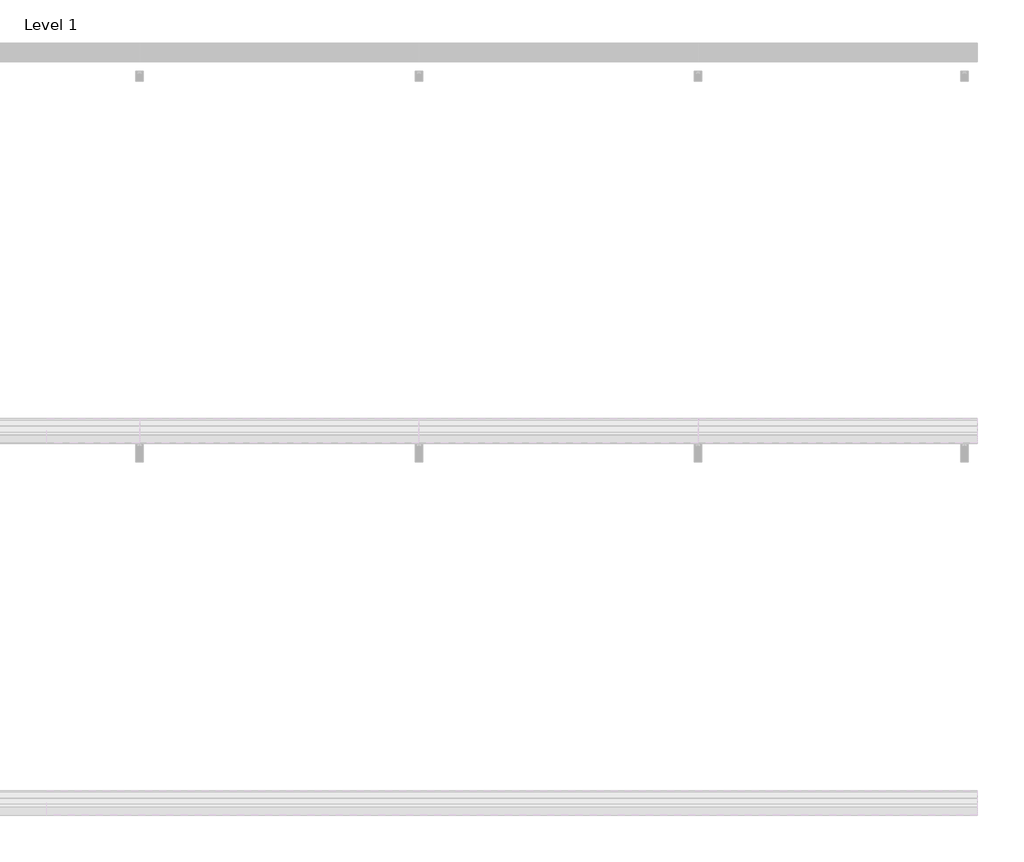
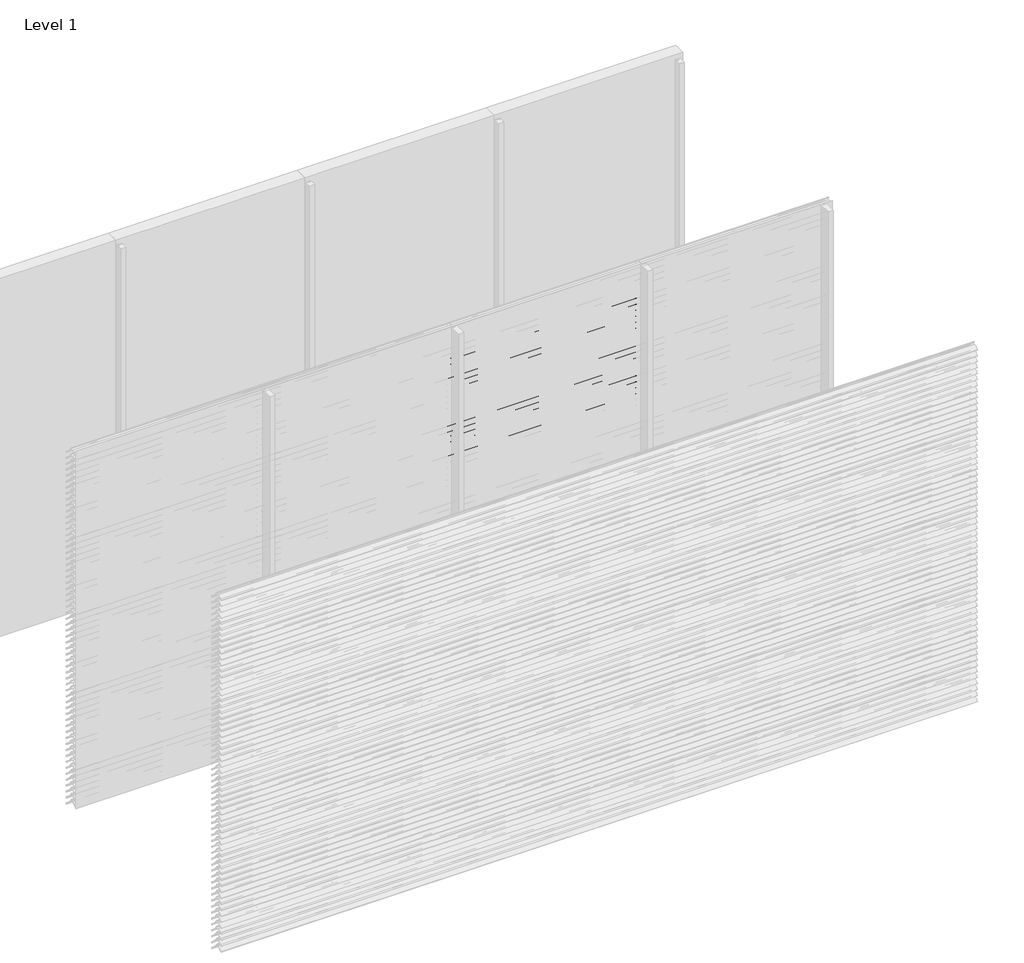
# One storey, part 65 of 173: 17 proxies.
"""IFC4 building model written with IfcOpenShell, lengths in millimetres."""

from ifc_helpers import new_model, si_unit, point, frame, frame_2d, origin, place, context, project, spatial, polyline, circle_curve, trimmed, segment, composite_curve, outline, extrude, element, save

model = new_model("IFC4")

# Units and contexts
model_context = context("Model", 3, world=origin())
ifc_project = project(units=[si_unit("LENGTHUNIT", "METRE", prefix="MILLI")], contexts=[model_context])

# Site, building, storey
site = spatial("IfcSite", under=ifc_project)
building = spatial("IfcBuilding", under=site)
storey = spatial("IfcBuildingStorey", under=building, Name="Level 1", Elevation=0.0)

# Proxies
placement = place(None, origin())
element("IfcBuildingElementProxy", 1, Name="Wall Sweeps", at=placement, inside=storey, context=model_context, shape_type="SweptSolid", body=[
    extrude(outline(composite_curve([segment(polyline([(-35998.0, 2659.1474905), (-35998.0, 2661.6227417)]), True, "CONTINUOUS"), segment(trimmed(circle_curve(frame_2d((-35951.2682172, 2616.2200208)), 65.1557103), [point((-35998.0, 2661.6227417))], [point((-35954.4014323, 2681.3003524))], False, "CARTESIAN"), True, "CONTINUOUS"), segment(polyline([(-35954.4014323, 2681.3003524), (-35934.8315836, 2681.3003524)]), True, "CONTINUOUS"), segment(trimmed(circle_curve(frame_2d((-35732.7329489, 2828.5533172)), 250.0545817), [point((-35934.8315836, 2681.3003524))], [point((-35941.4452143, 2690.8344583))], False, "CARTESIAN"), True, "CONTINUOUS"), segment(trimmed(circle_curve(frame_2d((-35953.2981792, 2685.1737835)), 13.1352966), [point((-35941.4452143, 2690.8344583))], [point((-35953.8171475, 2698.298824))], True, "CARTESIAN"), True, "CONTINUOUS"), segment(polyline([(-35953.8171475, 2698.298824), (-35953.8171475, 2700.0)]), True, "CONTINUOUS"), segment(trimmed(circle_curve(frame_2d((-35953.2981792, 2685.1737835)), 14.8352966), [point((-35953.8171475, 2700.0))], [point((-35939.9637661, 2691.6760487))], False, "CARTESIAN"), True, "CONTINUOUS"), segment(trimmed(circle_curve(frame_2d((-35732.7329489, 2828.5533172)), 248.3545817), [point((-35939.9637661, 2691.6760487))], [point((-35873.8787895, 2624.2059416))], True, "CARTESIAN"), True, "CONTINUOUS"), segment(trimmed(circle_curve(frame_2d((-35883.8147537, 2611.6649442)), 16.0), [point((-35873.8787895, 2624.2059416))], [point((-35867.8648347, 2610.4))], False, "CARTESIAN"), True, "CONTINUOUS"), segment(polyline([(-35867.8648347, 2610.4), (-35869.6712069, 2610.4)]), True, "CONTINUOUS"), segment(trimmed(circle_curve(frame_2d((-35883.8147537, 2611.6649442)), 14.2), [point((-35869.6712069, 2610.4))], [point((-35874.9518628, 2622.7594998))], True, "CARTESIAN"), True, "CONTINUOUS"), segment(trimmed(circle_curve(frame_2d((-35732.7329489, 2828.5533172)), 250.1545817), [point((-35874.9518628, 2622.7594998))], [point((-35933.7064024, 2679.6003524))], False, "CARTESIAN"), True, "CONTINUOUS"), segment(polyline([(-35933.7064024, 2679.6003524), (-35954.3602632, 2679.6003524)]), True, "CONTINUOUS"), segment(trimmed(circle_curve(frame_2d((-35951.2682172, 2616.2200208)), 63.4557103), [point((-35954.3602632, 2679.6003524))], [point((-35998.0, 2659.1474905))], True, "CARTESIAN"), True, "CONTINUOUS")], self_intersect=False)), frame((3000.0, 0.0, 0.0), z_axis=(1.0, 0.0, 0.0), x_axis=(0.0, 1.0, 0.0)), (0.0, 0.0, 1.0), 1500.0),
])
element("IfcBuildingElementProxy", 2, Name="Wall Sweeps", at=placement, inside=storey, context=model_context, shape_type="SweptSolid", body=[
    extrude(outline(composite_curve([segment(polyline([(-35998.0, 2609.1474905), (-35998.0, 2611.6227417)]), True, "CONTINUOUS"), segment(trimmed(circle_curve(frame_2d((-35951.2682172, 2566.2200208)), 65.1557103), [point((-35998.0, 2611.6227417))], [point((-35954.4014323, 2631.3003524))], False, "CARTESIAN"), True, "CONTINUOUS"), segment(polyline([(-35954.4014323, 2631.3003524), (-35934.8315836, 2631.3003524)]), True, "CONTINUOUS"), segment(trimmed(circle_curve(frame_2d((-35732.7329489, 2778.5533172)), 250.0545817), [point((-35934.8315836, 2631.3003524))], [point((-35941.4452143, 2640.8344583))], False, "CARTESIAN"), True, "CONTINUOUS"), segment(trimmed(circle_curve(frame_2d((-35953.2981792, 2635.1737835)), 13.1352966), [point((-35941.4452143, 2640.8344583))], [point((-35953.8171475, 2648.298824))], True, "CARTESIAN"), True, "CONTINUOUS"), segment(polyline([(-35953.8171475, 2648.298824), (-35953.8171475, 2650.0)]), True, "CONTINUOUS"), segment(trimmed(circle_curve(frame_2d((-35953.2981792, 2635.1737835)), 14.8352966), [point((-35953.8171475, 2650.0))], [point((-35939.9637661, 2641.6760487))], False, "CARTESIAN"), True, "CONTINUOUS"), segment(trimmed(circle_curve(frame_2d((-35732.7329489, 2778.5533172)), 248.3545817), [point((-35939.9637661, 2641.6760487))], [point((-35873.8787895, 2574.2059416))], True, "CARTESIAN"), True, "CONTINUOUS"), segment(trimmed(circle_curve(frame_2d((-35883.8147537, 2561.6649442)), 16.0), [point((-35873.8787895, 2574.2059416))], [point((-35867.8648347, 2560.4))], False, "CARTESIAN"), True, "CONTINUOUS"), segment(polyline([(-35867.8648347, 2560.4), (-35869.6712069, 2560.4)]), True, "CONTINUOUS"), segment(trimmed(circle_curve(frame_2d((-35883.8147537, 2561.6649442)), 14.2), [point((-35869.6712069, 2560.4))], [point((-35874.9518628, 2572.7594998))], True, "CARTESIAN"), True, "CONTINUOUS"), segment(trimmed(circle_curve(frame_2d((-35732.7329489, 2778.5533172)), 250.1545817), [point((-35874.9518628, 2572.7594998))], [point((-35933.7064024, 2629.6003524))], False, "CARTESIAN"), True, "CONTINUOUS"), segment(polyline([(-35933.7064024, 2629.6003524), (-35954.3602632, 2629.6003524)]), True, "CONTINUOUS"), segment(trimmed(circle_curve(frame_2d((-35951.2682172, 2566.2200208)), 63.4557103), [point((-35954.3602632, 2629.6003524))], [point((-35998.0, 2609.1474905))], True, "CARTESIAN"), True, "CONTINUOUS")], self_intersect=False)), frame((3000.0, 0.0, 0.0), z_axis=(1.0, 0.0, 0.0), x_axis=(0.0, 1.0, 0.0)), (0.0, 0.0, 1.0), 1500.0),
])
element("IfcBuildingElementProxy", 3, Name="Wall Sweeps", at=placement, inside=storey, context=model_context, shape_type="SweptSolid", body=[
    extrude(outline(composite_curve([segment(polyline([(-35998.0, 2559.1474905), (-35998.0, 2561.6227417)]), True, "CONTINUOUS"), segment(trimmed(circle_curve(frame_2d((-35951.2682172, 2516.2200208)), 65.1557103), [point((-35998.0, 2561.6227417))], [point((-35954.4014323, 2581.3003524))], False, "CARTESIAN"), True, "CONTINUOUS"), segment(polyline([(-35954.4014323, 2581.3003524), (-35934.8315836, 2581.3003524)]), True, "CONTINUOUS"), segment(trimmed(circle_curve(frame_2d((-35732.7329489, 2728.5533172)), 250.0545817), [point((-35934.8315836, 2581.3003524))], [point((-35941.4452143, 2590.8344583))], False, "CARTESIAN"), True, "CONTINUOUS"), segment(trimmed(circle_curve(frame_2d((-35953.2981792, 2585.1737835)), 13.1352966), [point((-35941.4452143, 2590.8344583))], [point((-35953.8171475, 2598.298824))], True, "CARTESIAN"), True, "CONTINUOUS"), segment(polyline([(-35953.8171475, 2598.298824), (-35953.8171475, 2600.0)]), True, "CONTINUOUS"), segment(trimmed(circle_curve(frame_2d((-35953.2981792, 2585.1737835)), 14.8352966), [point((-35953.8171475, 2600.0))], [point((-35939.9637661, 2591.6760487))], False, "CARTESIAN"), True, "CONTINUOUS"), segment(trimmed(circle_curve(frame_2d((-35732.7329489, 2728.5533172)), 248.3545817), [point((-35939.9637661, 2591.6760487))], [point((-35873.8787895, 2524.2059416))], True, "CARTESIAN"), True, "CONTINUOUS"), segment(trimmed(circle_curve(frame_2d((-35883.8147537, 2511.6649442)), 16.0), [point((-35873.8787895, 2524.2059416))], [point((-35867.8648347, 2510.4))], False, "CARTESIAN"), True, "CONTINUOUS"), segment(polyline([(-35867.8648347, 2510.4), (-35869.6712069, 2510.4)]), True, "CONTINUOUS"), segment(trimmed(circle_curve(frame_2d((-35883.8147537, 2511.6649442)), 14.2), [point((-35869.6712069, 2510.4))], [point((-35874.9518628, 2522.7594998))], True, "CARTESIAN"), True, "CONTINUOUS"), segment(trimmed(circle_curve(frame_2d((-35732.7329489, 2728.5533172)), 250.1545817), [point((-35874.9518628, 2522.7594998))], [point((-35933.7064024, 2579.6003524))], False, "CARTESIAN"), True, "CONTINUOUS"), segment(polyline([(-35933.7064024, 2579.6003524), (-35954.3602632, 2579.6003524)]), True, "CONTINUOUS"), segment(trimmed(circle_curve(frame_2d((-35951.2682172, 2516.2200208)), 63.4557103), [point((-35954.3602632, 2579.6003524))], [point((-35998.0, 2559.1474905))], True, "CARTESIAN"), True, "CONTINUOUS")], self_intersect=False)), frame((3000.0, 0.0, 0.0), z_axis=(1.0, 0.0, 0.0), x_axis=(0.0, 1.0, 0.0)), (0.0, 0.0, 1.0), 1500.0),
])
element("IfcBuildingElementProxy", 4, Name="Wall Sweeps", at=placement, inside=storey, context=model_context, shape_type="SweptSolid", body=[
    extrude(outline(composite_curve([segment(polyline([(-35998.0, 2509.1474905), (-35998.0, 2511.6227417)]), True, "CONTINUOUS"), segment(trimmed(circle_curve(frame_2d((-35951.2682172, 2466.2200208)), 65.1557103), [point((-35998.0, 2511.6227417))], [point((-35954.4014323, 2531.3003524))], False, "CARTESIAN"), True, "CONTINUOUS"), segment(polyline([(-35954.4014323, 2531.3003524), (-35934.8315836, 2531.3003524)]), True, "CONTINUOUS"), segment(trimmed(circle_curve(frame_2d((-35732.7329489, 2678.5533172)), 250.0545817), [point((-35934.8315836, 2531.3003524))], [point((-35941.4452143, 2540.8344583))], False, "CARTESIAN"), True, "CONTINUOUS"), segment(trimmed(circle_curve(frame_2d((-35953.2981792, 2535.1737835)), 13.1352966), [point((-35941.4452143, 2540.8344583))], [point((-35953.8171475, 2548.298824))], True, "CARTESIAN"), True, "CONTINUOUS"), segment(polyline([(-35953.8171475, 2548.298824), (-35953.8171475, 2550.0)]), True, "CONTINUOUS"), segment(trimmed(circle_curve(frame_2d((-35953.2981792, 2535.1737835)), 14.8352966), [point((-35953.8171475, 2550.0))], [point((-35939.9637661, 2541.6760487))], False, "CARTESIAN"), True, "CONTINUOUS"), segment(trimmed(circle_curve(frame_2d((-35732.7329489, 2678.5533172)), 248.3545817), [point((-35939.9637661, 2541.6760487))], [point((-35873.8787895, 2474.2059416))], True, "CARTESIAN"), True, "CONTINUOUS"), segment(trimmed(circle_curve(frame_2d((-35883.8147537, 2461.6649442)), 16.0), [point((-35873.8787895, 2474.2059416))], [point((-35867.8648347, 2460.4))], False, "CARTESIAN"), True, "CONTINUOUS"), segment(polyline([(-35867.8648347, 2460.4), (-35869.6712069, 2460.4)]), True, "CONTINUOUS"), segment(trimmed(circle_curve(frame_2d((-35883.8147537, 2461.6649442)), 14.2), [point((-35869.6712069, 2460.4))], [point((-35874.9518628, 2472.7594998))], True, "CARTESIAN"), True, "CONTINUOUS"), segment(trimmed(circle_curve(frame_2d((-35732.7329489, 2678.5533172)), 250.1545817), [point((-35874.9518628, 2472.7594998))], [point((-35933.7064024, 2529.6003524))], False, "CARTESIAN"), True, "CONTINUOUS"), segment(polyline([(-35933.7064024, 2529.6003524), (-35954.3602632, 2529.6003524)]), True, "CONTINUOUS"), segment(trimmed(circle_curve(frame_2d((-35951.2682172, 2466.2200208)), 63.4557103), [point((-35954.3602632, 2529.6003524))], [point((-35998.0, 2509.1474905))], True, "CARTESIAN"), True, "CONTINUOUS")], self_intersect=False)), frame((3000.0, 0.0, 0.0), z_axis=(1.0, 0.0, 0.0), x_axis=(0.0, 1.0, 0.0)), (0.0, 0.0, 1.0), 1500.0),
])
element("IfcBuildingElementProxy", 5, Name="Wall Sweeps", at=placement, inside=storey, context=model_context, shape_type="SweptSolid", body=[
    extrude(outline(composite_curve([segment(polyline([(-35998.0, 2459.1474905), (-35998.0, 2461.6227417)]), True, "CONTINUOUS"), segment(trimmed(circle_curve(frame_2d((-35951.2682172, 2416.2200208)), 65.1557103), [point((-35998.0, 2461.6227417))], [point((-35954.4014323, 2481.3003524))], False, "CARTESIAN"), True, "CONTINUOUS"), segment(polyline([(-35954.4014323, 2481.3003524), (-35934.8315836, 2481.3003524)]), True, "CONTINUOUS"), segment(trimmed(circle_curve(frame_2d((-35732.7329489, 2628.5533172)), 250.0545817), [point((-35934.8315836, 2481.3003524))], [point((-35941.4452143, 2490.8344583))], False, "CARTESIAN"), True, "CONTINUOUS"), segment(trimmed(circle_curve(frame_2d((-35953.2981792, 2485.1737835)), 13.1352966), [point((-35941.4452143, 2490.8344583))], [point((-35953.8171475, 2498.298824))], True, "CARTESIAN"), True, "CONTINUOUS"), segment(polyline([(-35953.8171475, 2498.298824), (-35953.8171475, 2500.0)]), True, "CONTINUOUS"), segment(trimmed(circle_curve(frame_2d((-35953.2981792, 2485.1737835)), 14.8352966), [point((-35953.8171475, 2500.0))], [point((-35939.9637661, 2491.6760487))], False, "CARTESIAN"), True, "CONTINUOUS"), segment(trimmed(circle_curve(frame_2d((-35732.7329489, 2628.5533172)), 248.3545817), [point((-35939.9637661, 2491.6760487))], [point((-35873.8787895, 2424.2059416))], True, "CARTESIAN"), True, "CONTINUOUS"), segment(trimmed(circle_curve(frame_2d((-35883.8147537, 2411.6649442)), 16.0), [point((-35873.8787895, 2424.2059416))], [point((-35867.8648347, 2410.4))], False, "CARTESIAN"), True, "CONTINUOUS"), segment(polyline([(-35867.8648347, 2410.4), (-35869.6712069, 2410.4)]), True, "CONTINUOUS"), segment(trimmed(circle_curve(frame_2d((-35883.8147537, 2411.6649442)), 14.2), [point((-35869.6712069, 2410.4))], [point((-35874.9518628, 2422.7594998))], True, "CARTESIAN"), True, "CONTINUOUS"), segment(trimmed(circle_curve(frame_2d((-35732.7329489, 2628.5533172)), 250.1545817), [point((-35874.9518628, 2422.7594998))], [point((-35933.7064024, 2479.6003524))], False, "CARTESIAN"), True, "CONTINUOUS"), segment(polyline([(-35933.7064024, 2479.6003524), (-35954.3602632, 2479.6003524)]), True, "CONTINUOUS"), segment(trimmed(circle_curve(frame_2d((-35951.2682172, 2416.2200208)), 63.4557103), [point((-35954.3602632, 2479.6003524))], [point((-35998.0, 2459.1474905))], True, "CARTESIAN"), True, "CONTINUOUS")], self_intersect=False)), frame((3000.0, 0.0, 0.0), z_axis=(1.0, 0.0, 0.0), x_axis=(0.0, 1.0, 0.0)), (0.0, 0.0, 1.0), 1500.0),
])
element("IfcBuildingElementProxy", 6, Name="Wall Sweeps", at=placement, inside=storey, context=model_context, shape_type="SweptSolid", body=[
    extrude(outline(composite_curve([segment(polyline([(-35998.0, 2409.1474905), (-35998.0, 2411.6227417)]), True, "CONTINUOUS"), segment(trimmed(circle_curve(frame_2d((-35951.2682172, 2366.2200208)), 65.1557103), [point((-35998.0, 2411.6227417))], [point((-35954.4014323, 2431.3003524))], False, "CARTESIAN"), True, "CONTINUOUS"), segment(polyline([(-35954.4014323, 2431.3003524), (-35934.8315836, 2431.3003524)]), True, "CONTINUOUS"), segment(trimmed(circle_curve(frame_2d((-35732.7329489, 2578.5533172)), 250.0545817), [point((-35934.8315836, 2431.3003524))], [point((-35941.4452143, 2440.8344583))], False, "CARTESIAN"), True, "CONTINUOUS"), segment(trimmed(circle_curve(frame_2d((-35953.2981792, 2435.1737835)), 13.1352966), [point((-35941.4452143, 2440.8344583))], [point((-35953.8171475, 2448.298824))], True, "CARTESIAN"), True, "CONTINUOUS"), segment(polyline([(-35953.8171475, 2448.298824), (-35953.8171475, 2450.0)]), True, "CONTINUOUS"), segment(trimmed(circle_curve(frame_2d((-35953.2981792, 2435.1737835)), 14.8352966), [point((-35953.8171475, 2450.0))], [point((-35939.9637661, 2441.6760487))], False, "CARTESIAN"), True, "CONTINUOUS"), segment(trimmed(circle_curve(frame_2d((-35732.7329489, 2578.5533172)), 248.3545817), [point((-35939.9637661, 2441.6760487))], [point((-35873.8787895, 2374.2059416))], True, "CARTESIAN"), True, "CONTINUOUS"), segment(trimmed(circle_curve(frame_2d((-35883.8147537, 2361.6649442)), 16.0), [point((-35873.8787895, 2374.2059416))], [point((-35867.8648347, 2360.4))], False, "CARTESIAN"), True, "CONTINUOUS"), segment(polyline([(-35867.8648347, 2360.4), (-35869.6712069, 2360.4)]), True, "CONTINUOUS"), segment(trimmed(circle_curve(frame_2d((-35883.8147537, 2361.6649442)), 14.2), [point((-35869.6712069, 2360.4))], [point((-35874.9518628, 2372.7594998))], True, "CARTESIAN"), True, "CONTINUOUS"), segment(trimmed(circle_curve(frame_2d((-35732.7329489, 2578.5533172)), 250.1545817), [point((-35874.9518628, 2372.7594998))], [point((-35933.7064024, 2429.6003524))], False, "CARTESIAN"), True, "CONTINUOUS"), segment(polyline([(-35933.7064024, 2429.6003524), (-35954.3602632, 2429.6003524)]), True, "CONTINUOUS"), segment(trimmed(circle_curve(frame_2d((-35951.2682172, 2366.2200208)), 63.4557103), [point((-35954.3602632, 2429.6003524))], [point((-35998.0, 2409.1474905))], True, "CARTESIAN"), True, "CONTINUOUS")], self_intersect=False)), frame((3000.0, 0.0, 0.0), z_axis=(1.0, 0.0, 0.0), x_axis=(0.0, 1.0, 0.0)), (0.0, 0.0, 1.0), 1500.0),
])
element("IfcBuildingElementProxy", 7, Name="Wall Sweeps", at=placement, inside=storey, context=model_context, shape_type="SweptSolid", body=[
    extrude(outline(composite_curve([segment(polyline([(-35998.0, 2359.1474905), (-35998.0, 2361.6227417)]), True, "CONTINUOUS"), segment(trimmed(circle_curve(frame_2d((-35951.2682172, 2316.2200208)), 65.1557103), [point((-35998.0, 2361.6227417))], [point((-35954.4014323, 2381.3003524))], False, "CARTESIAN"), True, "CONTINUOUS"), segment(polyline([(-35954.4014323, 2381.3003524), (-35934.8315836, 2381.3003524)]), True, "CONTINUOUS"), segment(trimmed(circle_curve(frame_2d((-35732.7329489, 2528.5533172)), 250.0545817), [point((-35934.8315836, 2381.3003524))], [point((-35941.4452143, 2390.8344583))], False, "CARTESIAN"), True, "CONTINUOUS"), segment(trimmed(circle_curve(frame_2d((-35953.2981792, 2385.1737835)), 13.1352966), [point((-35941.4452143, 2390.8344583))], [point((-35953.8171475, 2398.298824))], True, "CARTESIAN"), True, "CONTINUOUS"), segment(polyline([(-35953.8171475, 2398.298824), (-35953.8171475, 2400.0)]), True, "CONTINUOUS"), segment(trimmed(circle_curve(frame_2d((-35953.2981792, 2385.1737835)), 14.8352966), [point((-35953.8171475, 2400.0))], [point((-35939.9637661, 2391.6760487))], False, "CARTESIAN"), True, "CONTINUOUS"), segment(trimmed(circle_curve(frame_2d((-35732.7329489, 2528.5533172)), 248.3545817), [point((-35939.9637661, 2391.6760487))], [point((-35873.8787895, 2324.2059416))], True, "CARTESIAN"), True, "CONTINUOUS"), segment(trimmed(circle_curve(frame_2d((-35883.8147537, 2311.6649442)), 16.0), [point((-35873.8787895, 2324.2059416))], [point((-35867.8648347, 2310.4))], False, "CARTESIAN"), True, "CONTINUOUS"), segment(polyline([(-35867.8648347, 2310.4), (-35869.6712069, 2310.4)]), True, "CONTINUOUS"), segment(trimmed(circle_curve(frame_2d((-35883.8147537, 2311.6649442)), 14.2), [point((-35869.6712069, 2310.4))], [point((-35874.9518628, 2322.7594998))], True, "CARTESIAN"), True, "CONTINUOUS"), segment(trimmed(circle_curve(frame_2d((-35732.7329489, 2528.5533172)), 250.1545817), [point((-35874.9518628, 2322.7594998))], [point((-35933.7064024, 2379.6003524))], False, "CARTESIAN"), True, "CONTINUOUS"), segment(polyline([(-35933.7064024, 2379.6003524), (-35954.3602632, 2379.6003524)]), True, "CONTINUOUS"), segment(trimmed(circle_curve(frame_2d((-35951.2682172, 2316.2200208)), 63.4557103), [point((-35954.3602632, 2379.6003524))], [point((-35998.0, 2359.1474905))], True, "CARTESIAN"), True, "CONTINUOUS")], self_intersect=False)), frame((3000.0, 0.0, 0.0), z_axis=(1.0, 0.0, 0.0), x_axis=(0.0, 1.0, 0.0)), (0.0, 0.0, 1.0), 1500.0),
])
element("IfcBuildingElementProxy", 8, Name="Wall Sweeps", at=placement, inside=storey, context=model_context, shape_type="SweptSolid", body=[
    extrude(outline(composite_curve([segment(polyline([(-35998.0, 2309.1474905), (-35998.0, 2311.6227417)]), True, "CONTINUOUS"), segment(trimmed(circle_curve(frame_2d((-35951.2682172, 2266.2200208)), 65.1557103), [point((-35998.0, 2311.6227417))], [point((-35954.4014323, 2331.3003524))], False, "CARTESIAN"), True, "CONTINUOUS"), segment(polyline([(-35954.4014323, 2331.3003524), (-35934.8315836, 2331.3003524)]), True, "CONTINUOUS"), segment(trimmed(circle_curve(frame_2d((-35732.7329489, 2478.5533172)), 250.0545817), [point((-35934.8315836, 2331.3003524))], [point((-35941.4452143, 2340.8344583))], False, "CARTESIAN"), True, "CONTINUOUS"), segment(trimmed(circle_curve(frame_2d((-35953.2981792, 2335.1737835)), 13.1352966), [point((-35941.4452143, 2340.8344583))], [point((-35953.8171475, 2348.298824))], True, "CARTESIAN"), True, "CONTINUOUS"), segment(polyline([(-35953.8171475, 2348.298824), (-35953.8171475, 2350.0)]), True, "CONTINUOUS"), segment(trimmed(circle_curve(frame_2d((-35953.2981792, 2335.1737835)), 14.8352966), [point((-35953.8171475, 2350.0))], [point((-35939.9637661, 2341.6760487))], False, "CARTESIAN"), True, "CONTINUOUS"), segment(trimmed(circle_curve(frame_2d((-35732.7329489, 2478.5533172)), 248.3545817), [point((-35939.9637661, 2341.6760487))], [point((-35873.8787895, 2274.2059416))], True, "CARTESIAN"), True, "CONTINUOUS"), segment(trimmed(circle_curve(frame_2d((-35883.8147537, 2261.6649442)), 16.0), [point((-35873.8787895, 2274.2059416))], [point((-35867.8648347, 2260.4))], False, "CARTESIAN"), True, "CONTINUOUS"), segment(polyline([(-35867.8648347, 2260.4), (-35869.6712069, 2260.4)]), True, "CONTINUOUS"), segment(trimmed(circle_curve(frame_2d((-35883.8147537, 2261.6649442)), 14.2), [point((-35869.6712069, 2260.4))], [point((-35874.9518628, 2272.7594998))], True, "CARTESIAN"), True, "CONTINUOUS"), segment(trimmed(circle_curve(frame_2d((-35732.7329489, 2478.5533172)), 250.1545817), [point((-35874.9518628, 2272.7594998))], [point((-35933.7064024, 2329.6003524))], False, "CARTESIAN"), True, "CONTINUOUS"), segment(polyline([(-35933.7064024, 2329.6003524), (-35954.3602632, 2329.6003524)]), True, "CONTINUOUS"), segment(trimmed(circle_curve(frame_2d((-35951.2682172, 2266.2200208)), 63.4557103), [point((-35954.3602632, 2329.6003524))], [point((-35998.0, 2309.1474905))], True, "CARTESIAN"), True, "CONTINUOUS")], self_intersect=False)), frame((3000.0, 0.0, 0.0), z_axis=(1.0, 0.0, 0.0), x_axis=(0.0, 1.0, 0.0)), (0.0, 0.0, 1.0), 1500.0),
])
element("IfcBuildingElementProxy", 9, Name="Wall Sweeps", at=placement, inside=storey, context=model_context, shape_type="SweptSolid", body=[
    extrude(outline(composite_curve([segment(polyline([(-35998.0, 2259.1474905), (-35998.0, 2261.6227417)]), True, "CONTINUOUS"), segment(trimmed(circle_curve(frame_2d((-35951.2682172, 2216.2200208)), 65.1557103), [point((-35998.0, 2261.6227417))], [point((-35954.4014323, 2281.3003524))], False, "CARTESIAN"), True, "CONTINUOUS"), segment(polyline([(-35954.4014323, 2281.3003524), (-35934.8315836, 2281.3003524)]), True, "CONTINUOUS"), segment(trimmed(circle_curve(frame_2d((-35732.7329489, 2428.5533172)), 250.0545817), [point((-35934.8315836, 2281.3003524))], [point((-35941.4452143, 2290.8344583))], False, "CARTESIAN"), True, "CONTINUOUS"), segment(trimmed(circle_curve(frame_2d((-35953.2981792, 2285.1737835)), 13.1352966), [point((-35941.4452143, 2290.8344583))], [point((-35953.8171475, 2298.298824))], True, "CARTESIAN"), True, "CONTINUOUS"), segment(polyline([(-35953.8171475, 2298.298824), (-35953.8171475, 2300.0)]), True, "CONTINUOUS"), segment(trimmed(circle_curve(frame_2d((-35953.2981792, 2285.1737835)), 14.8352966), [point((-35953.8171475, 2300.0))], [point((-35939.9637661, 2291.6760487))], False, "CARTESIAN"), True, "CONTINUOUS"), segment(trimmed(circle_curve(frame_2d((-35732.7329489, 2428.5533172)), 248.3545817), [point((-35939.9637661, 2291.6760487))], [point((-35873.8787895, 2224.2059416))], True, "CARTESIAN"), True, "CONTINUOUS"), segment(trimmed(circle_curve(frame_2d((-35883.8147537, 2211.6649442)), 16.0), [point((-35873.8787895, 2224.2059416))], [point((-35867.8648347, 2210.4))], False, "CARTESIAN"), True, "CONTINUOUS"), segment(polyline([(-35867.8648347, 2210.4), (-35869.6712069, 2210.4)]), True, "CONTINUOUS"), segment(trimmed(circle_curve(frame_2d((-35883.8147537, 2211.6649442)), 14.2), [point((-35869.6712069, 2210.4))], [point((-35874.9518628, 2222.7594998))], True, "CARTESIAN"), True, "CONTINUOUS"), segment(trimmed(circle_curve(frame_2d((-35732.7329489, 2428.5533172)), 250.1545817), [point((-35874.9518628, 2222.7594998))], [point((-35933.7064024, 2279.6003524))], False, "CARTESIAN"), True, "CONTINUOUS"), segment(polyline([(-35933.7064024, 2279.6003524), (-35954.3602632, 2279.6003524)]), True, "CONTINUOUS"), segment(trimmed(circle_curve(frame_2d((-35951.2682172, 2216.2200208)), 63.4557103), [point((-35954.3602632, 2279.6003524))], [point((-35998.0, 2259.1474905))], True, "CARTESIAN"), True, "CONTINUOUS")], self_intersect=False)), frame((3000.0, 0.0, 0.0), z_axis=(1.0, 0.0, 0.0), x_axis=(0.0, 1.0, 0.0)), (0.0, 0.0, 1.0), 1500.0),
])
element("IfcBuildingElementProxy", 10, Name="Wall Sweeps", at=placement, inside=storey, context=model_context, shape_type="SweptSolid", body=[
    extrude(outline(composite_curve([segment(polyline([(-35998.0, 2209.1474905), (-35998.0, 2211.6227417)]), True, "CONTINUOUS"), segment(trimmed(circle_curve(frame_2d((-35951.2682172, 2166.2200208)), 65.1557103), [point((-35998.0, 2211.6227417))], [point((-35954.4014323, 2231.3003524))], False, "CARTESIAN"), True, "CONTINUOUS"), segment(polyline([(-35954.4014323, 2231.3003524), (-35934.8315836, 2231.3003524)]), True, "CONTINUOUS"), segment(trimmed(circle_curve(frame_2d((-35732.7329489, 2378.5533172)), 250.0545817), [point((-35934.8315836, 2231.3003524))], [point((-35941.4452143, 2240.8344583))], False, "CARTESIAN"), True, "CONTINUOUS"), segment(trimmed(circle_curve(frame_2d((-35953.2981792, 2235.1737835)), 13.1352966), [point((-35941.4452143, 2240.8344583))], [point((-35953.8171475, 2248.298824))], True, "CARTESIAN"), True, "CONTINUOUS"), segment(polyline([(-35953.8171475, 2248.298824), (-35953.8171475, 2250.0)]), True, "CONTINUOUS"), segment(trimmed(circle_curve(frame_2d((-35953.2981792, 2235.1737835)), 14.8352966), [point((-35953.8171475, 2250.0))], [point((-35939.9637661, 2241.6760487))], False, "CARTESIAN"), True, "CONTINUOUS"), segment(trimmed(circle_curve(frame_2d((-35732.7329489, 2378.5533172)), 248.3545817), [point((-35939.9637661, 2241.6760487))], [point((-35873.8787895, 2174.2059416))], True, "CARTESIAN"), True, "CONTINUOUS"), segment(trimmed(circle_curve(frame_2d((-35883.8147537, 2161.6649442)), 16.0), [point((-35873.8787895, 2174.2059416))], [point((-35867.8648347, 2160.4))], False, "CARTESIAN"), True, "CONTINUOUS"), segment(polyline([(-35867.8648347, 2160.4), (-35869.6712069, 2160.4)]), True, "CONTINUOUS"), segment(trimmed(circle_curve(frame_2d((-35883.8147537, 2161.6649442)), 14.2), [point((-35869.6712069, 2160.4))], [point((-35874.9518628, 2172.7594998))], True, "CARTESIAN"), True, "CONTINUOUS"), segment(trimmed(circle_curve(frame_2d((-35732.7329489, 2378.5533172)), 250.1545817), [point((-35874.9518628, 2172.7594998))], [point((-35933.7064024, 2229.6003524))], False, "CARTESIAN"), True, "CONTINUOUS"), segment(polyline([(-35933.7064024, 2229.6003524), (-35954.3602632, 2229.6003524)]), True, "CONTINUOUS"), segment(trimmed(circle_curve(frame_2d((-35951.2682172, 2166.2200208)), 63.4557103), [point((-35954.3602632, 2229.6003524))], [point((-35998.0, 2209.1474905))], True, "CARTESIAN"), True, "CONTINUOUS")], self_intersect=False)), frame((3000.0, 0.0, 0.0), z_axis=(1.0, 0.0, 0.0), x_axis=(0.0, 1.0, 0.0)), (0.0, 0.0, 1.0), 1500.0),
])
element("IfcBuildingElementProxy", 11, Name="Wall Sweeps", at=placement, inside=storey, context=model_context, shape_type="SweptSolid", body=[
    extrude(outline(composite_curve([segment(polyline([(-35998.0, 2159.1474905), (-35998.0, 2161.6227417)]), True, "CONTINUOUS"), segment(trimmed(circle_curve(frame_2d((-35951.2682172, 2116.2200208)), 65.1557103), [point((-35998.0, 2161.6227417))], [point((-35954.4014323, 2181.3003524))], False, "CARTESIAN"), True, "CONTINUOUS"), segment(polyline([(-35954.4014323, 2181.3003524), (-35934.8315836, 2181.3003524)]), True, "CONTINUOUS"), segment(trimmed(circle_curve(frame_2d((-35732.7329489, 2328.5533172)), 250.0545817), [point((-35934.8315836, 2181.3003524))], [point((-35941.4452143, 2190.8344583))], False, "CARTESIAN"), True, "CONTINUOUS"), segment(trimmed(circle_curve(frame_2d((-35953.2981792, 2185.1737835)), 13.1352966), [point((-35941.4452143, 2190.8344583))], [point((-35953.8171475, 2198.298824))], True, "CARTESIAN"), True, "CONTINUOUS"), segment(polyline([(-35953.8171475, 2198.298824), (-35953.8171475, 2200.0)]), True, "CONTINUOUS"), segment(trimmed(circle_curve(frame_2d((-35953.2981792, 2185.1737835)), 14.8352966), [point((-35953.8171475, 2200.0))], [point((-35939.9637661, 2191.6760487))], False, "CARTESIAN"), True, "CONTINUOUS"), segment(trimmed(circle_curve(frame_2d((-35732.7329489, 2328.5533172)), 248.3545817), [point((-35939.9637661, 2191.6760487))], [point((-35873.8787895, 2124.2059416))], True, "CARTESIAN"), True, "CONTINUOUS"), segment(trimmed(circle_curve(frame_2d((-35883.8147537, 2111.6649442)), 16.0), [point((-35873.8787895, 2124.2059416))], [point((-35867.8648347, 2110.4))], False, "CARTESIAN"), True, "CONTINUOUS"), segment(polyline([(-35867.8648347, 2110.4), (-35869.6712069, 2110.4)]), True, "CONTINUOUS"), segment(trimmed(circle_curve(frame_2d((-35883.8147537, 2111.6649442)), 14.2), [point((-35869.6712069, 2110.4))], [point((-35874.9518628, 2122.7594998))], True, "CARTESIAN"), True, "CONTINUOUS"), segment(trimmed(circle_curve(frame_2d((-35732.7329489, 2328.5533172)), 250.1545817), [point((-35874.9518628, 2122.7594998))], [point((-35933.7064024, 2179.6003524))], False, "CARTESIAN"), True, "CONTINUOUS"), segment(polyline([(-35933.7064024, 2179.6003524), (-35954.3602632, 2179.6003524)]), True, "CONTINUOUS"), segment(trimmed(circle_curve(frame_2d((-35951.2682172, 2116.2200208)), 63.4557103), [point((-35954.3602632, 2179.6003524))], [point((-35998.0, 2159.1474905))], True, "CARTESIAN"), True, "CONTINUOUS")], self_intersect=False)), frame((3000.0, 0.0, 0.0), z_axis=(1.0, 0.0, 0.0), x_axis=(0.0, 1.0, 0.0)), (0.0, 0.0, 1.0), 1500.0),
])
element("IfcBuildingElementProxy", 12, Name="Wall Sweeps", at=placement, inside=storey, context=model_context, shape_type="SweptSolid", body=[
    extrude(outline(composite_curve([segment(polyline([(-35998.0, 2109.1474905), (-35998.0, 2111.6227417)]), True, "CONTINUOUS"), segment(trimmed(circle_curve(frame_2d((-35951.2682172, 2066.2200208)), 65.1557103), [point((-35998.0, 2111.6227417))], [point((-35954.4014323, 2131.3003524))], False, "CARTESIAN"), True, "CONTINUOUS"), segment(polyline([(-35954.4014323, 2131.3003524), (-35934.8315836, 2131.3003524)]), True, "CONTINUOUS"), segment(trimmed(circle_curve(frame_2d((-35732.7329489, 2278.5533172)), 250.0545817), [point((-35934.8315836, 2131.3003524))], [point((-35941.4452143, 2140.8344583))], False, "CARTESIAN"), True, "CONTINUOUS"), segment(trimmed(circle_curve(frame_2d((-35953.2981792, 2135.1737835)), 13.1352966), [point((-35941.4452143, 2140.8344583))], [point((-35953.8171475, 2148.298824))], True, "CARTESIAN"), True, "CONTINUOUS"), segment(polyline([(-35953.8171475, 2148.298824), (-35953.8171475, 2150.0)]), True, "CONTINUOUS"), segment(trimmed(circle_curve(frame_2d((-35953.2981792, 2135.1737835)), 14.8352966), [point((-35953.8171475, 2150.0))], [point((-35939.9637661, 2141.6760487))], False, "CARTESIAN"), True, "CONTINUOUS"), segment(trimmed(circle_curve(frame_2d((-35732.7329489, 2278.5533172)), 248.3545817), [point((-35939.9637661, 2141.6760487))], [point((-35873.8787895, 2074.2059416))], True, "CARTESIAN"), True, "CONTINUOUS"), segment(trimmed(circle_curve(frame_2d((-35883.8147537, 2061.6649442)), 16.0), [point((-35873.8787895, 2074.2059416))], [point((-35867.8648347, 2060.4))], False, "CARTESIAN"), True, "CONTINUOUS"), segment(polyline([(-35867.8648347, 2060.4), (-35869.6712069, 2060.4)]), True, "CONTINUOUS"), segment(trimmed(circle_curve(frame_2d((-35883.8147537, 2061.6649442)), 14.2), [point((-35869.6712069, 2060.4))], [point((-35874.9518628, 2072.7594998))], True, "CARTESIAN"), True, "CONTINUOUS"), segment(trimmed(circle_curve(frame_2d((-35732.7329489, 2278.5533172)), 250.1545817), [point((-35874.9518628, 2072.7594998))], [point((-35933.7064024, 2129.6003524))], False, "CARTESIAN"), True, "CONTINUOUS"), segment(polyline([(-35933.7064024, 2129.6003524), (-35954.3602632, 2129.6003524)]), True, "CONTINUOUS"), segment(trimmed(circle_curve(frame_2d((-35951.2682172, 2066.2200208)), 63.4557103), [point((-35954.3602632, 2129.6003524))], [point((-35998.0, 2109.1474905))], True, "CARTESIAN"), True, "CONTINUOUS")], self_intersect=False)), frame((3000.0, 0.0, 0.0), z_axis=(1.0, 0.0, 0.0), x_axis=(0.0, 1.0, 0.0)), (0.0, 0.0, 1.0), 1500.0),
])
element("IfcBuildingElementProxy", 13, Name="Wall Sweeps", at=placement, inside=storey, context=model_context, shape_type="SweptSolid", body=[
    extrude(outline(composite_curve([segment(polyline([(-35998.0, 2059.1474905), (-35998.0, 2061.6227417)]), True, "CONTINUOUS"), segment(trimmed(circle_curve(frame_2d((-35951.2682172, 2016.2200208)), 65.1557103), [point((-35998.0, 2061.6227417))], [point((-35954.4014323, 2081.3003524))], False, "CARTESIAN"), True, "CONTINUOUS"), segment(polyline([(-35954.4014323, 2081.3003524), (-35934.8315836, 2081.3003524)]), True, "CONTINUOUS"), segment(trimmed(circle_curve(frame_2d((-35732.7329489, 2228.5533172)), 250.0545817), [point((-35934.8315836, 2081.3003524))], [point((-35941.4452143, 2090.8344583))], False, "CARTESIAN"), True, "CONTINUOUS"), segment(trimmed(circle_curve(frame_2d((-35953.2981792, 2085.1737835)), 13.1352966), [point((-35941.4452143, 2090.8344583))], [point((-35953.8171475, 2098.298824))], True, "CARTESIAN"), True, "CONTINUOUS"), segment(polyline([(-35953.8171475, 2098.298824), (-35953.8171475, 2100.0)]), True, "CONTINUOUS"), segment(trimmed(circle_curve(frame_2d((-35953.2981792, 2085.1737835)), 14.8352966), [point((-35953.8171475, 2100.0))], [point((-35939.9637661, 2091.6760487))], False, "CARTESIAN"), True, "CONTINUOUS"), segment(trimmed(circle_curve(frame_2d((-35732.7329489, 2228.5533172)), 248.3545817), [point((-35939.9637661, 2091.6760487))], [point((-35873.8787895, 2024.2059416))], True, "CARTESIAN"), True, "CONTINUOUS"), segment(trimmed(circle_curve(frame_2d((-35883.8147537, 2011.6649442)), 16.0), [point((-35873.8787895, 2024.2059416))], [point((-35867.8648347, 2010.4))], False, "CARTESIAN"), True, "CONTINUOUS"), segment(polyline([(-35867.8648347, 2010.4), (-35869.6712069, 2010.4)]), True, "CONTINUOUS"), segment(trimmed(circle_curve(frame_2d((-35883.8147537, 2011.6649442)), 14.2), [point((-35869.6712069, 2010.4))], [point((-35874.9518628, 2022.7594998))], True, "CARTESIAN"), True, "CONTINUOUS"), segment(trimmed(circle_curve(frame_2d((-35732.7329489, 2228.5533172)), 250.1545817), [point((-35874.9518628, 2022.7594998))], [point((-35933.7064024, 2079.6003524))], False, "CARTESIAN"), True, "CONTINUOUS"), segment(polyline([(-35933.7064024, 2079.6003524), (-35954.3602632, 2079.6003524)]), True, "CONTINUOUS"), segment(trimmed(circle_curve(frame_2d((-35951.2682172, 2016.2200208)), 63.4557103), [point((-35954.3602632, 2079.6003524))], [point((-35998.0, 2059.1474905))], True, "CARTESIAN"), True, "CONTINUOUS")], self_intersect=False)), frame((3000.0, 0.0, 0.0), z_axis=(1.0, 0.0, 0.0), x_axis=(0.0, 1.0, 0.0)), (0.0, 0.0, 1.0), 1500.0),
])
element("IfcBuildingElementProxy", 14, Name="Wall Sweeps", at=placement, inside=storey, context=model_context, shape_type="SweptSolid", body=[
    extrude(outline(composite_curve([segment(polyline([(-35998.0, 2009.1474905), (-35998.0, 2011.6227417)]), True, "CONTINUOUS"), segment(trimmed(circle_curve(frame_2d((-35951.2682172, 1966.2200208)), 65.1557103), [point((-35998.0, 2011.6227417))], [point((-35954.4014323, 2031.3003524))], False, "CARTESIAN"), True, "CONTINUOUS"), segment(polyline([(-35954.4014323, 2031.3003524), (-35934.8315836, 2031.3003524)]), True, "CONTINUOUS"), segment(trimmed(circle_curve(frame_2d((-35732.7329489, 2178.5533172)), 250.0545817), [point((-35934.8315836, 2031.3003524))], [point((-35941.4452143, 2040.8344583))], False, "CARTESIAN"), True, "CONTINUOUS"), segment(trimmed(circle_curve(frame_2d((-35953.2981792, 2035.1737835)), 13.1352966), [point((-35941.4452143, 2040.8344583))], [point((-35953.8171475, 2048.298824))], True, "CARTESIAN"), True, "CONTINUOUS"), segment(polyline([(-35953.8171475, 2048.298824), (-35953.8171475, 2050.0)]), True, "CONTINUOUS"), segment(trimmed(circle_curve(frame_2d((-35953.2981792, 2035.1737835)), 14.8352966), [point((-35953.8171475, 2050.0))], [point((-35939.9637661, 2041.6760487))], False, "CARTESIAN"), True, "CONTINUOUS"), segment(trimmed(circle_curve(frame_2d((-35732.7329489, 2178.5533172)), 248.3545817), [point((-35939.9637661, 2041.6760487))], [point((-35873.8787895, 1974.2059416))], True, "CARTESIAN"), True, "CONTINUOUS"), segment(trimmed(circle_curve(frame_2d((-35883.8147537, 1961.6649442)), 16.0), [point((-35873.8787895, 1974.2059416))], [point((-35867.8648347, 1960.4))], False, "CARTESIAN"), True, "CONTINUOUS"), segment(polyline([(-35867.8648347, 1960.4), (-35869.6712069, 1960.4)]), True, "CONTINUOUS"), segment(trimmed(circle_curve(frame_2d((-35883.8147537, 1961.6649442)), 14.2), [point((-35869.6712069, 1960.4))], [point((-35874.9518628, 1972.7594998))], True, "CARTESIAN"), True, "CONTINUOUS"), segment(trimmed(circle_curve(frame_2d((-35732.7329489, 2178.5533172)), 250.1545817), [point((-35874.9518628, 1972.7594998))], [point((-35933.7064024, 2029.6003524))], False, "CARTESIAN"), True, "CONTINUOUS"), segment(polyline([(-35933.7064024, 2029.6003524), (-35954.3602632, 2029.6003524)]), True, "CONTINUOUS"), segment(trimmed(circle_curve(frame_2d((-35951.2682172, 1966.2200208)), 63.4557103), [point((-35954.3602632, 2029.6003524))], [point((-35998.0, 2009.1474905))], True, "CARTESIAN"), True, "CONTINUOUS")], self_intersect=False)), frame((3000.0, 0.0, 0.0), z_axis=(1.0, 0.0, 0.0), x_axis=(0.0, 1.0, 0.0)), (0.0, 0.0, 1.0), 1500.0),
])
element("IfcBuildingElementProxy", 15, Name="Wall Sweeps", at=placement, inside=storey, context=model_context, shape_type="SweptSolid", body=[
    extrude(outline(composite_curve([segment(polyline([(-35998.0, 1959.1474905), (-35998.0, 1961.6227417)]), True, "CONTINUOUS"), segment(trimmed(circle_curve(frame_2d((-35951.2682172, 1916.2200208)), 65.1557103), [point((-35998.0, 1961.6227417))], [point((-35954.4014323, 1981.3003524))], False, "CARTESIAN"), True, "CONTINUOUS"), segment(polyline([(-35954.4014323, 1981.3003524), (-35934.8315836, 1981.3003524)]), True, "CONTINUOUS"), segment(trimmed(circle_curve(frame_2d((-35732.7329489, 2128.5533172)), 250.0545817), [point((-35934.8315836, 1981.3003524))], [point((-35941.4452143, 1990.8344583))], False, "CARTESIAN"), True, "CONTINUOUS"), segment(trimmed(circle_curve(frame_2d((-35953.2981792, 1985.1737835)), 13.1352966), [point((-35941.4452143, 1990.8344583))], [point((-35953.8171475, 1998.298824))], True, "CARTESIAN"), True, "CONTINUOUS"), segment(polyline([(-35953.8171475, 1998.298824), (-35953.8171475, 2000.0)]), True, "CONTINUOUS"), segment(trimmed(circle_curve(frame_2d((-35953.2981792, 1985.1737835)), 14.8352966), [point((-35953.8171475, 2000.0))], [point((-35939.9637661, 1991.6760487))], False, "CARTESIAN"), True, "CONTINUOUS"), segment(trimmed(circle_curve(frame_2d((-35732.7329489, 2128.5533172)), 248.3545817), [point((-35939.9637661, 1991.6760487))], [point((-35873.8787895, 1924.2059416))], True, "CARTESIAN"), True, "CONTINUOUS"), segment(trimmed(circle_curve(frame_2d((-35883.8147537, 1911.6649442)), 16.0), [point((-35873.8787895, 1924.2059416))], [point((-35867.8648347, 1910.4))], False, "CARTESIAN"), True, "CONTINUOUS"), segment(polyline([(-35867.8648347, 1910.4), (-35869.6712069, 1910.4)]), True, "CONTINUOUS"), segment(trimmed(circle_curve(frame_2d((-35883.8147537, 1911.6649442)), 14.2), [point((-35869.6712069, 1910.4))], [point((-35874.9518628, 1922.7594998))], True, "CARTESIAN"), True, "CONTINUOUS"), segment(trimmed(circle_curve(frame_2d((-35732.7329489, 2128.5533172)), 250.1545817), [point((-35874.9518628, 1922.7594998))], [point((-35933.7064024, 1979.6003524))], False, "CARTESIAN"), True, "CONTINUOUS"), segment(polyline([(-35933.7064024, 1979.6003524), (-35954.3602632, 1979.6003524)]), True, "CONTINUOUS"), segment(trimmed(circle_curve(frame_2d((-35951.2682172, 1916.2200208)), 63.4557103), [point((-35954.3602632, 1979.6003524))], [point((-35998.0, 1959.1474905))], True, "CARTESIAN"), True, "CONTINUOUS")], self_intersect=False)), frame((3000.0, 0.0, 0.0), z_axis=(1.0, 0.0, 0.0), x_axis=(0.0, 1.0, 0.0)), (0.0, 0.0, 1.0), 1500.0),
])
element("IfcBuildingElementProxy", 16, Name="Wall Sweeps", at=placement, inside=storey, context=model_context, shape_type="SweptSolid", body=[
    extrude(outline(composite_curve([segment(polyline([(-35998.0, 1909.1474905), (-35998.0, 1911.6227417)]), True, "CONTINUOUS"), segment(trimmed(circle_curve(frame_2d((-35951.2682172, 1866.2200208)), 65.1557103), [point((-35998.0, 1911.6227417))], [point((-35954.4014323, 1931.3003524))], False, "CARTESIAN"), True, "CONTINUOUS"), segment(polyline([(-35954.4014323, 1931.3003524), (-35934.8315836, 1931.3003524)]), True, "CONTINUOUS"), segment(trimmed(circle_curve(frame_2d((-35732.7329489, 2078.5533172)), 250.0545817), [point((-35934.8315836, 1931.3003524))], [point((-35941.4452143, 1940.8344583))], False, "CARTESIAN"), True, "CONTINUOUS"), segment(trimmed(circle_curve(frame_2d((-35953.2981792, 1935.1737835)), 13.1352966), [point((-35941.4452143, 1940.8344583))], [point((-35953.8171475, 1948.298824))], True, "CARTESIAN"), True, "CONTINUOUS"), segment(polyline([(-35953.8171475, 1948.298824), (-35953.8171475, 1950.0)]), True, "CONTINUOUS"), segment(trimmed(circle_curve(frame_2d((-35953.2981792, 1935.1737835)), 14.8352966), [point((-35953.8171475, 1950.0))], [point((-35939.9637661, 1941.6760487))], False, "CARTESIAN"), True, "CONTINUOUS"), segment(trimmed(circle_curve(frame_2d((-35732.7329489, 2078.5533172)), 248.3545817), [point((-35939.9637661, 1941.6760487))], [point((-35873.8787895, 1874.2059416))], True, "CARTESIAN"), True, "CONTINUOUS"), segment(trimmed(circle_curve(frame_2d((-35883.8147537, 1861.6649442)), 16.0), [point((-35873.8787895, 1874.2059416))], [point((-35867.8648347, 1860.4))], False, "CARTESIAN"), True, "CONTINUOUS"), segment(polyline([(-35867.8648347, 1860.4), (-35869.6712069, 1860.4)]), True, "CONTINUOUS"), segment(trimmed(circle_curve(frame_2d((-35883.8147537, 1861.6649442)), 14.2), [point((-35869.6712069, 1860.4))], [point((-35874.9518628, 1872.7594998))], True, "CARTESIAN"), True, "CONTINUOUS"), segment(trimmed(circle_curve(frame_2d((-35732.7329489, 2078.5533172)), 250.1545817), [point((-35874.9518628, 1872.7594998))], [point((-35933.7064024, 1929.6003524))], False, "CARTESIAN"), True, "CONTINUOUS"), segment(polyline([(-35933.7064024, 1929.6003524), (-35954.3602632, 1929.6003524)]), True, "CONTINUOUS"), segment(trimmed(circle_curve(frame_2d((-35951.2682172, 1866.2200208)), 63.4557103), [point((-35954.3602632, 1929.6003524))], [point((-35998.0, 1909.1474905))], True, "CARTESIAN"), True, "CONTINUOUS")], self_intersect=False)), frame((3000.0, 0.0, 0.0), z_axis=(1.0, 0.0, 0.0), x_axis=(0.0, 1.0, 0.0)), (0.0, 0.0, 1.0), 1500.0),
])
element("IfcBuildingElementProxy", 17, Name="Wall Sweeps", at=placement, inside=storey, context=model_context, shape_type="SweptSolid", body=[
    extrude(outline(composite_curve([segment(polyline([(-35998.0, 1859.1474905), (-35998.0, 1861.6227417)]), True, "CONTINUOUS"), segment(trimmed(circle_curve(frame_2d((-35951.2682172, 1816.2200208)), 65.1557103), [point((-35998.0, 1861.6227417))], [point((-35954.4014323, 1881.3003524))], False, "CARTESIAN"), True, "CONTINUOUS"), segment(polyline([(-35954.4014323, 1881.3003524), (-35934.8315836, 1881.3003524)]), True, "CONTINUOUS"), segment(trimmed(circle_curve(frame_2d((-35732.7329489, 2028.5533172)), 250.0545817), [point((-35934.8315836, 1881.3003524))], [point((-35941.4452143, 1890.8344583))], False, "CARTESIAN"), True, "CONTINUOUS"), segment(trimmed(circle_curve(frame_2d((-35953.2981792, 1885.1737835)), 13.1352966), [point((-35941.4452143, 1890.8344583))], [point((-35953.8171475, 1898.298824))], True, "CARTESIAN"), True, "CONTINUOUS"), segment(polyline([(-35953.8171475, 1898.298824), (-35953.8171475, 1900.0)]), True, "CONTINUOUS"), segment(trimmed(circle_curve(frame_2d((-35953.2981792, 1885.1737835)), 14.8352966), [point((-35953.8171475, 1900.0))], [point((-35939.9637661, 1891.6760487))], False, "CARTESIAN"), True, "CONTINUOUS"), segment(trimmed(circle_curve(frame_2d((-35732.7329489, 2028.5533172)), 248.3545817), [point((-35939.9637661, 1891.6760487))], [point((-35873.8787895, 1824.2059416))], True, "CARTESIAN"), True, "CONTINUOUS"), segment(trimmed(circle_curve(frame_2d((-35883.8147537, 1811.6649442)), 16.0), [point((-35873.8787895, 1824.2059416))], [point((-35867.8648347, 1810.4))], False, "CARTESIAN"), True, "CONTINUOUS"), segment(polyline([(-35867.8648347, 1810.4), (-35869.6712069, 1810.4)]), True, "CONTINUOUS"), segment(trimmed(circle_curve(frame_2d((-35883.8147537, 1811.6649442)), 14.2), [point((-35869.6712069, 1810.4))], [point((-35874.9518628, 1822.7594998))], True, "CARTESIAN"), True, "CONTINUOUS"), segment(trimmed(circle_curve(frame_2d((-35732.7329489, 2028.5533172)), 250.1545817), [point((-35874.9518628, 1822.7594998))], [point((-35933.7064024, 1879.6003524))], False, "CARTESIAN"), True, "CONTINUOUS"), segment(polyline([(-35933.7064024, 1879.6003524), (-35954.3602632, 1879.6003524)]), True, "CONTINUOUS"), segment(trimmed(circle_curve(frame_2d((-35951.2682172, 1816.2200208)), 63.4557103), [point((-35954.3602632, 1879.6003524))], [point((-35998.0, 1859.1474905))], True, "CARTESIAN"), True, "CONTINUOUS")], self_intersect=False)), frame((3000.0, 0.0, 0.0), z_axis=(1.0, 0.0, 0.0), x_axis=(0.0, 1.0, 0.0)), (0.0, 0.0, 1.0), 1500.0),
])

save(model, "model.ifc")
